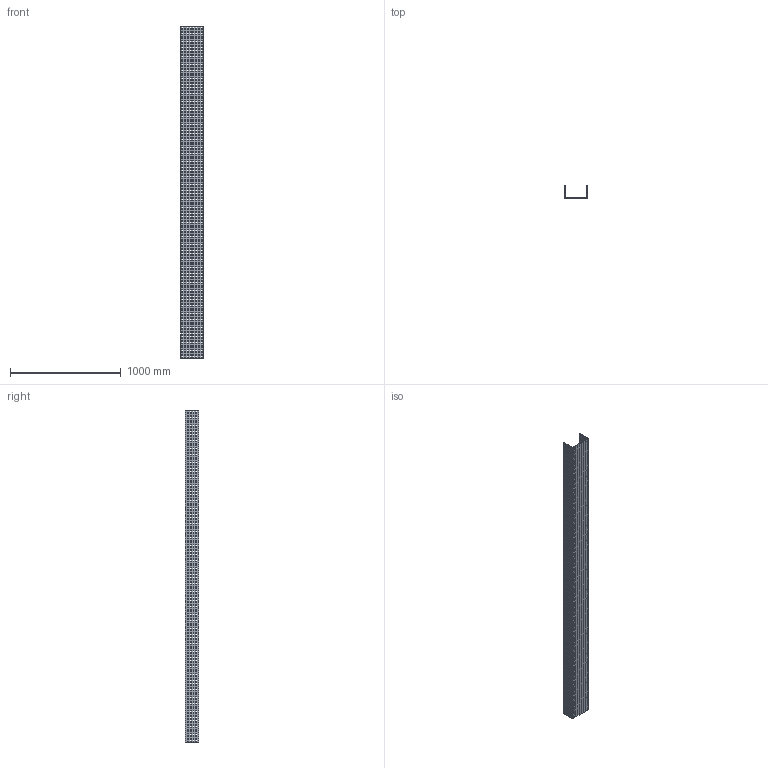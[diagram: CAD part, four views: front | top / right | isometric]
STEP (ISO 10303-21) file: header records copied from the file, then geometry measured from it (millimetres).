
FILE_DESCRIPTION (( 'STEP AP214' ), '1' );
FILE_NAME ('01B3J200.step', '2025-02-21T10:05:07', ( '' ), ( '' ), 'SwSTEP 2.0', 'SolidWorks 2023', '' );
FILE_SCHEMA (( 'AUTOMOTIVE_DESIGN' ));
Products named in the file (1): 01B3J200
Bounding box: 204 x 117.5 x 3000 mm (x, y, z)
Volume: 3830400 mm3; surface area: 2470872 mm2
Topology: 1 solids, 1 shells, 4618 faces, 13848 edges, 9232 vertices
Faces by surface type: plane 4618
Entity records: 156983 total; most frequent: CARTESIAN_POINT 27699, ORIENTED_EDGE 27696, DIRECTION 23086, LINE 13848, EDGE_CURVE 13848, VECTOR 13848, VERTEX_POINT 9232, EDGE_LOOP 6922
